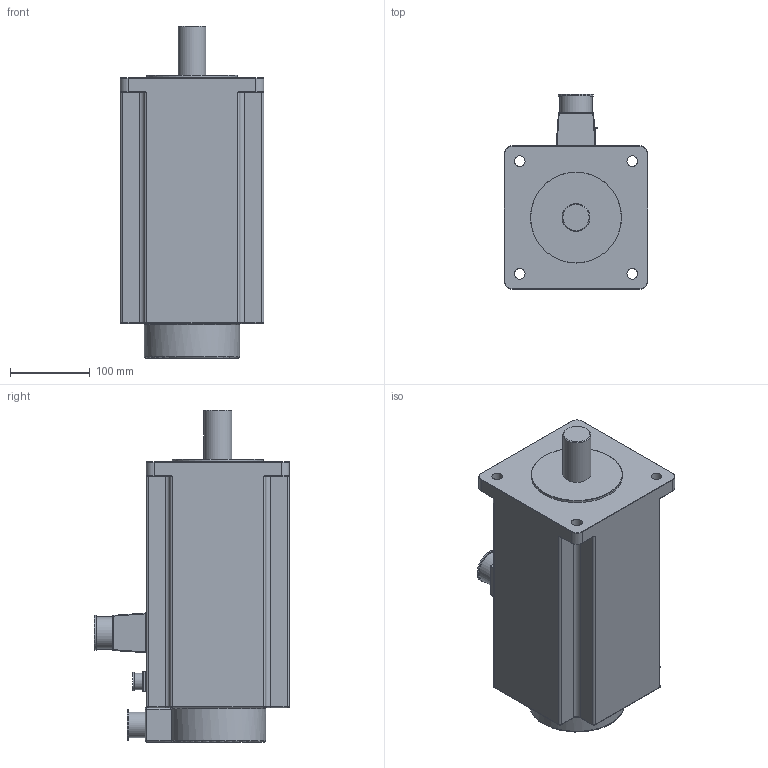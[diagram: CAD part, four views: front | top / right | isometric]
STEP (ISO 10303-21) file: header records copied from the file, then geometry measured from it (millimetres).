
FILE_DESCRIPTION(/* description */ (''),/* implementation_level */ '2;1');
FILE_NAME(/* name */ '180MAH35015 - FZ.stp',/* time_stamp */ '2019-11-22T13:56:52+08:00',/* author */ (''),/* organization */ (''),/* preprocessor_version */ 'ST-DEVELOPER v16',/* originating_system */ 'SIEMENS PLM Software NX 10.0',/* authorisation */ '');
FILE_SCHEMA (('CONFIG_CONTROL_DESIGN'));
Length unit declared in the file: millimetre
Products named in the file (1): 180MAH35015 - FZ
Bounding box: 180 x 245 x 417.01 mm (x, y, z)
Volume: 9746938.4 mm3; surface area: 326389.6 mm2
Topology: 1 solids, 1 shells, 195 faces, 441 edges, 244 vertices
Faces by surface type: cylinder 92, plane 41, torus 37, bspline 12, sphere 11, cone 2
Full cylindrical faces by diameter (mm): 13.5 x4, 21 x1, 23 x1, 32 x1, 35 x1, 39 x1, 41 x1, 44 x1, 114.3 x1
Entity records: 5419 total; most frequent: CARTESIAN_POINT 1097, DIRECTION 973, ORIENTED_EDGE 810, AXIS2_PLACEMENT_3D 406, EDGE_CURVE 405, VERTEX_POINT 238, EDGE_LOOP 229, CIRCLE 212
